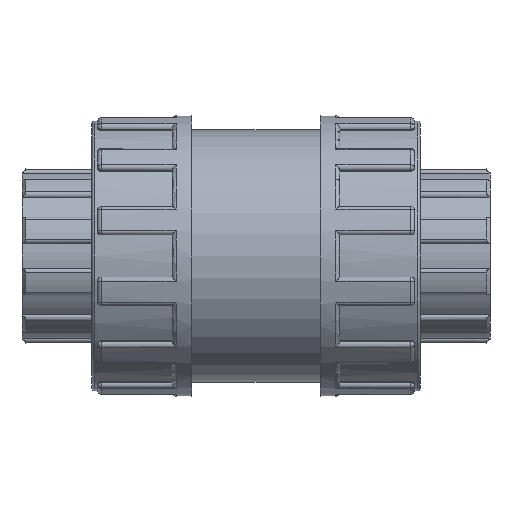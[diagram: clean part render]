
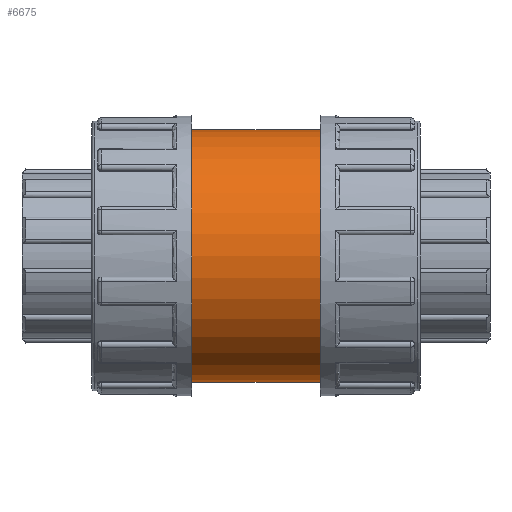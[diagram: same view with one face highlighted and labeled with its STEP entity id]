
A CAD part, front view. The second image highlights one B-rep face of the part: STEP entity #6675.
In plain terms, the highlighted cylindrical face has radius 20.25 mm (diameter 40.5 mm), a full revolution.
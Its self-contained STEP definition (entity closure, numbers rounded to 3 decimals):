
#185=FACE_BOUND('',#1099,.T.);
#186=FACE_BOUND('',#1100,.T.);
#670=FACE_OUTER_BOUND('',#1098,.T.);
#1098=EDGE_LOOP('',(#6073));
#1099=EDGE_LOOP('',(#6074));
#1100=EDGE_LOOP('',(#6075));
#1149=B_SPLINE_CURVE_WITH_KNOTS('',3,(#10735,#10736,#10737,#10738,#10739,
#10740,#10741,#10742,#10743,#10744,#10745,#10746,#10747,#10748,#10749,#10750,
#10751,#10752,#10753,#10754,#10755,#10756,#10757,#10758,#10759,#10760,#10761,
#10762,#10763,#10764,#10765,#10766,#10767,#10768),.UNSPECIFIED.,.T.,.F.,
(4,2,2,2,2,2,2,2,2,2,2,2,2,2,2,2,4),(0.,0.256,0.513,
0.769,1.026,1.282,1.538,1.795,
2.051,2.308,2.564,2.82,3.077,
3.333,3.589,3.846,4.102),
 .UNSPECIFIED.);
#2472=CIRCLE('',#7578,20.25);
#2473=CIRCLE('',#7580,20.25);
#2638=VERTEX_POINT('',#10734);
#3083=VERTEX_POINT('',#13353);
#3084=VERTEX_POINT('',#13356);
#3349=EDGE_CURVE('',#2638,#2638,#1149,.T.);
#4082=EDGE_CURVE('',#3083,#3083,#2472,.T.);
#4083=EDGE_CURVE('',#3084,#3084,#2473,.T.);
#6073=ORIENTED_EDGE('',*,*,#4082,.T.);
#6074=ORIENTED_EDGE('',*,*,#3349,.T.);
#6075=ORIENTED_EDGE('',*,*,#4083,.F.);
#6267=CYLINDRICAL_SURFACE('',#7579,20.25);
#6675=ADVANCED_FACE('',(#670,#185,#186),#6267,.T.);
#7578=AXIS2_PLACEMENT_3D('',#13354,#9749,#9750);
#7579=AXIS2_PLACEMENT_3D('',#13355,#9751,#9752);
#7580=AXIS2_PLACEMENT_3D('',#13357,#9753,#9754);
#9749=DIRECTION('center_axis',(1.,0.,0.));
#9750=DIRECTION('ref_axis',(0.,0.,-1.));
#9751=DIRECTION('center_axis',(1.,0.,0.));
#9752=DIRECTION('ref_axis',(0.,1.,0.));
#9753=DIRECTION('center_axis',(1.,0.,0.));
#9754=DIRECTION('ref_axis',(0.,0.,-1.));
#10734=CARTESIAN_POINT('',(0.,19.092,-6.75));
#10735=CARTESIAN_POINT('Ctrl Pts',(0.,19.092,-6.75));
#10736=CARTESIAN_POINT('Ctrl Pts',(0.855,19.092,-6.75));
#10737=CARTESIAN_POINT('Ctrl Pts',(1.762,19.155,-6.578));
#10738=CARTESIAN_POINT('Ctrl Pts',(3.423,19.379,-5.887));
#10739=CARTESIAN_POINT('Ctrl Pts',(4.177,19.535,-5.369));
#10740=CARTESIAN_POINT('Ctrl Pts',(5.368,19.824,-4.177));
#10741=CARTESIAN_POINT('Ctrl Pts',(5.887,19.976,-3.423));
#10742=CARTESIAN_POINT('Ctrl Pts',(6.578,20.191,-1.762));
#10743=CARTESIAN_POINT('Ctrl Pts',(6.75,20.25,-0.854));
#10744=CARTESIAN_POINT('Ctrl Pts',(6.75,20.25,0.854));
#10745=CARTESIAN_POINT('Ctrl Pts',(6.578,20.191,1.762));
#10746=CARTESIAN_POINT('Ctrl Pts',(5.887,19.976,3.423));
#10747=CARTESIAN_POINT('Ctrl Pts',(5.368,19.824,4.177));
#10748=CARTESIAN_POINT('Ctrl Pts',(4.177,19.535,5.369));
#10749=CARTESIAN_POINT('Ctrl Pts',(3.423,19.379,5.887));
#10750=CARTESIAN_POINT('Ctrl Pts',(1.762,19.155,6.578));
#10751=CARTESIAN_POINT('Ctrl Pts',(0.855,19.092,6.75));
#10752=CARTESIAN_POINT('Ctrl Pts',(-0.855,19.092,
6.75));
#10753=CARTESIAN_POINT('Ctrl Pts',(-1.762,19.155,6.578));
#10754=CARTESIAN_POINT('Ctrl Pts',(-3.423,19.379,5.887));
#10755=CARTESIAN_POINT('Ctrl Pts',(-4.177,19.535,5.369));
#10756=CARTESIAN_POINT('Ctrl Pts',(-5.368,19.824,4.177));
#10757=CARTESIAN_POINT('Ctrl Pts',(-5.887,19.976,3.423));
#10758=CARTESIAN_POINT('Ctrl Pts',(-6.578,20.191,1.762));
#10759=CARTESIAN_POINT('Ctrl Pts',(-6.75,20.25,0.854));
#10760=CARTESIAN_POINT('Ctrl Pts',(-6.75,20.25,-0.854));
#10761=CARTESIAN_POINT('Ctrl Pts',(-6.578,20.191,-1.762));
#10762=CARTESIAN_POINT('Ctrl Pts',(-5.887,19.976,-3.423));
#10763=CARTESIAN_POINT('Ctrl Pts',(-5.368,19.824,-4.177));
#10764=CARTESIAN_POINT('Ctrl Pts',(-4.177,19.535,-5.369));
#10765=CARTESIAN_POINT('Ctrl Pts',(-3.423,19.379,-5.887));
#10766=CARTESIAN_POINT('Ctrl Pts',(-1.762,19.155,-6.578));
#10767=CARTESIAN_POINT('Ctrl Pts',(-0.855,19.092,
-6.75));
#10768=CARTESIAN_POINT('Ctrl Pts',(0.,19.092,
-6.75));
#13353=CARTESIAN_POINT('',(-10.3,20.25,0.));
#13354=CARTESIAN_POINT('Origin',(-10.3,0.,0.));
#13355=CARTESIAN_POINT('Origin',(0.,0.,0.));
#13356=CARTESIAN_POINT('',(10.3,20.25,0.));
#13357=CARTESIAN_POINT('Origin',(10.3,0.,0.));
